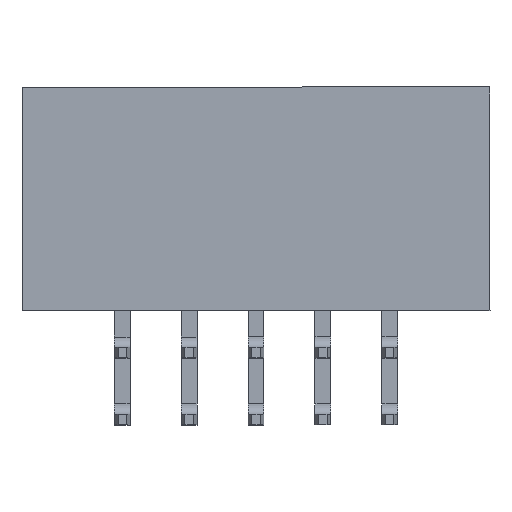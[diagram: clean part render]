
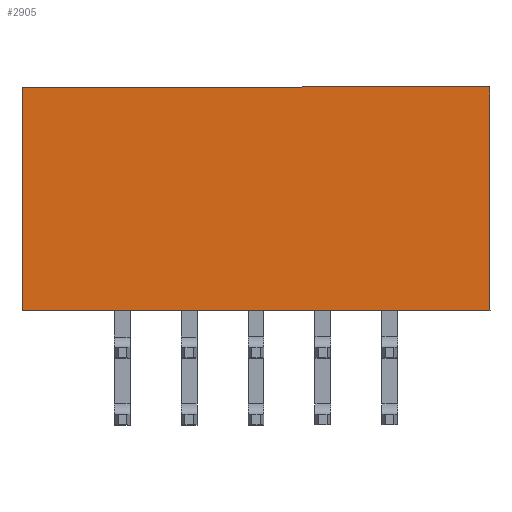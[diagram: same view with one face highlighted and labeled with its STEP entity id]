
A CAD part, top view. The second image highlights one B-rep face of the part: STEP entity #2905.
In plain terms, the highlighted planar face has unit normal (0, 0, 1).
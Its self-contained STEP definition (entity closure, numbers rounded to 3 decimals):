
#414 = VECTOR ( 'NONE', #4500, 1000. ) ;
#436 = AXIS2_PLACEMENT_3D ( 'NONE', #4561, #4563, #4564 ) ;
#1631 = CARTESIAN_POINT ( 'NONE',  ( -74.86, 0., 6. ) ) ;
#1640 = CARTESIAN_POINT ( 'NONE',  ( -57.08, 0., 6. ) ) ;
#1646 = CARTESIAN_POINT ( 'NONE',  ( -57.081, 8.499, 6. ) ) ;
#1649 = CARTESIAN_POINT ( 'NONE',  ( -74.861, 8.497, 6. ) ) ;
#2191 = EDGE_CURVE ( 'NONE', #7055, #7061, #8269, .T. ) ;
#2375 = EDGE_CURVE ( 'NONE', #7045, #7055, #3480, .T. ) ;
#2378 = EDGE_CURVE ( 'NONE', #7064, #7045, #3443, .T. ) ;
#2889 = EDGE_CURVE ( 'NONE', #7061, #7064, #4490, .T. ) ;
#2905 = ADVANCED_FACE ( 'NONE', ( #4554 ), #4558, .T. ) ;
#2929 = CARTESIAN_POINT ( 'NONE',  ( -57.08, 0.003, 6. ) ) ;
#2931 = DIRECTION ( 'NONE',  ( 0., 1., 0. ) ) ;
#3443 = LINE ( 'NONE', #3490, #5542 ) ;
#3480 = LINE ( 'NONE', #3481, #5553 ) ;
#3481 = CARTESIAN_POINT ( 'NONE',  ( -65.872, 0., 6. ) ) ;
#3482 = DIRECTION ( 'NONE',  ( 1., 0., 0. ) ) ;
#3490 = CARTESIAN_POINT ( 'NONE',  ( -74.86, 0.001, 6. ) ) ;
#3491 = DIRECTION ( 'NONE',  ( 0., -1., 0. ) ) ;
#4490 = LINE ( 'NONE', #4499, #414 ) ;
#4499 = CARTESIAN_POINT ( 'NONE',  ( -49.461, 8.5, 6. ) ) ;
#4500 = DIRECTION ( 'NONE',  ( -1., 0., 0. ) ) ;
#4554 = FACE_OUTER_BOUND ( 'NONE', #6119, .T. ) ;
#4558 = PLANE ( 'NONE',  #436 ) ;
#4561 = CARTESIAN_POINT ( 'NONE',  ( -82.481, 0., 6. ) ) ;
#4563 = DIRECTION ( 'NONE',  ( 0., 0., 1. ) ) ;
#4564 = DIRECTION ( 'NONE',  ( 1., 0., 0. ) ) ;
#5364 = VECTOR ( 'NONE', #2931, 1000. ) ;
#5542 = VECTOR ( 'NONE', #3491, 1000. ) ;
#5553 = VECTOR ( 'NONE', #3482, 1000. ) ;
#6119 = EDGE_LOOP ( 'NONE', ( #6846, #6847, #6848, #6849 ) ) ;
#6846 = ORIENTED_EDGE ( 'NONE', *, *, #2375, .T. ) ;
#6847 = ORIENTED_EDGE ( 'NONE', *, *, #2191, .T. ) ;
#6848 = ORIENTED_EDGE ( 'NONE', *, *, #2889, .T. ) ;
#6849 = ORIENTED_EDGE ( 'NONE', *, *, #2378, .T. ) ;
#7045 = VERTEX_POINT ( 'NONE', #1631 ) ;
#7055 = VERTEX_POINT ( 'NONE', #1640 ) ;
#7061 = VERTEX_POINT ( 'NONE', #1646 ) ;
#7064 = VERTEX_POINT ( 'NONE', #1649 ) ;
#8269 = LINE ( 'NONE', #2929, #5364 ) ;
